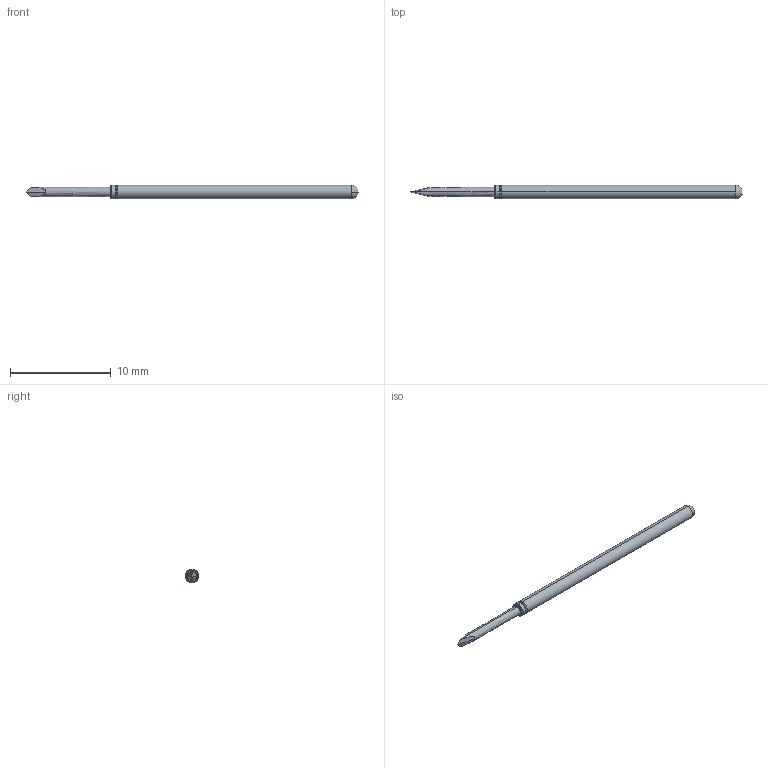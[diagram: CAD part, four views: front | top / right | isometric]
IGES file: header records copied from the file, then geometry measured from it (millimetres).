
Start section: SolidWorks IGES file using analytic representation for surfaces
Global section: file name: Z:\probe solid model mockups\Solidworks models\POGO-25 IGS files\POGO-25I.IGS; native system: SolidWorks 2006 by SolidWorks Corporation; preprocessor: SolidWorks 2006 by SolidWorks Corporation; author: tsakatani; date: 071214.085920; units: inch
Bounding box: 33.02 x 1.37 x 1.37 mm (x, y, z)
Surface area: 129.8 mm2 (no closed solid volume)
Topology: 0 solids, 0 shells, 22 faces, 162 edges, 162 vertices
Faces by surface type: revolution 12, bspline 10
